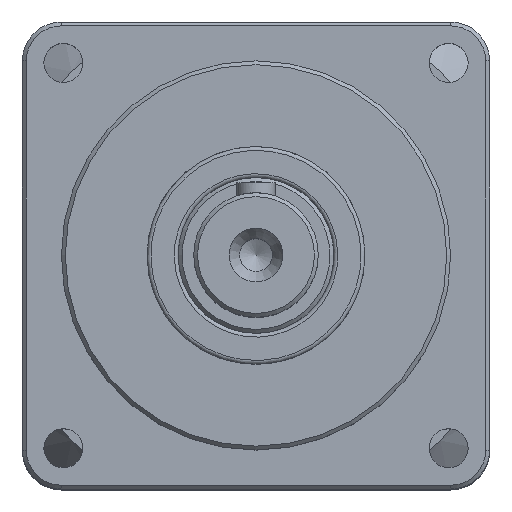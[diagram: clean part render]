
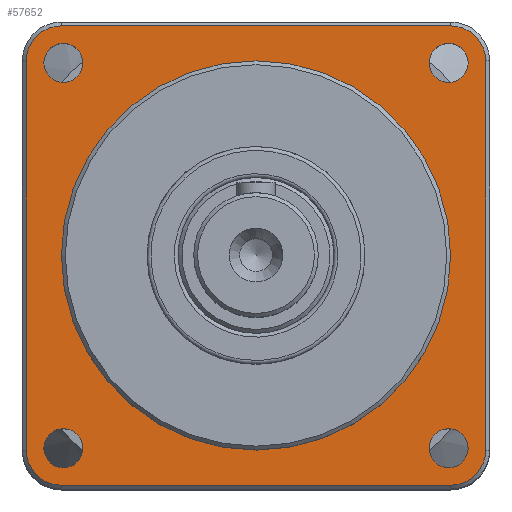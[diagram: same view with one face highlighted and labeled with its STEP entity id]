
A CAD part, top view. The second image highlights one B-rep face of the part: STEP entity #57652.
In plain terms, the highlighted planar face has unit normal (0, 0, 1).
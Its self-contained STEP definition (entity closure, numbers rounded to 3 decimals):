
#866 = ORIENTED_EDGE ( 'NONE', *, *, #18277, .T. ) ;
#891 = AXIS2_PLACEMENT_3D ( 'NONE', #52312, #44131, #35956 ) ;
#1132 = FACE_BOUND ( 'NONE', #28090, .T. ) ;
#1255 = EDGE_CURVE ( 'NONE', #19650, #19650, #40319, .T. ) ;
#1461 = VERTEX_POINT ( 'NONE', #42662 ) ;
#2676 = CIRCLE ( 'NONE', #64534, 2.5 ) ;
#3051 = AXIS2_PLACEMENT_3D ( 'NONE', #61007, #52857, #44670 ) ;
#3162 = FACE_BOUND ( 'NONE', #64157, .T. ) ;
#3461 = CIRCLE ( 'NONE', #891, 2.5 ) ;
#3787 = DIRECTION ( 'NONE',  ( -1., 0., 0. ) ) ;
#3793 = LINE ( 'NONE', #75368, #64826 ) ;
#5677 = CARTESIAN_POINT ( 'NONE',  ( -41.951, 0.913, 13.5 ) ) ;
#6763 = DIRECTION ( 'NONE',  ( 0., 0., 1. ) ) ;
#7094 = CARTESIAN_POINT ( 'NONE',  ( 10.298, 50.662, 13.5 ) ) ;
#7295 = FACE_BOUND ( 'NONE', #44975, .T. ) ;
#8000 = VERTEX_POINT ( 'NONE', #79539 ) ;
#11376 = DIRECTION ( 'NONE',  ( -1., 0., 0. ) ) ;
#11401 = FACE_BOUND ( 'NONE', #62643, .T. ) ;
#11483 = CARTESIAN_POINT ( 'NONE',  ( 7.547, 50.41, 13.5 ) ) ;
#11562 = VERTEX_POINT ( 'NONE', #76775 ) ;
#11610 = AXIS2_PLACEMENT_3D ( 'NONE', #65229, #57076, #48904 ) ;
#11628 = EDGE_CURVE ( 'NONE', #13882, #13882, #19925, .T. ) ;
#11952 = DIRECTION ( 'NONE',  ( 0., 0., 1. ) ) ;
#13882 = VERTEX_POINT ( 'NONE', #5677 ) ;
#14506 = EDGE_LOOP ( 'NONE', ( #74088 ) ) ;
#14943 = CARTESIAN_POINT ( 'NONE',  ( -39.702, 50.662, 13.5 ) ) ;
#15371 = CARTESIAN_POINT ( 'NONE',  ( -39.702, 0.662, 13.5 ) ) ;
#15542 = CARTESIAN_POINT ( 'NONE',  ( -39.702, 55.162, 13.5 ) ) ;
#16371 = ORIENTED_EDGE ( 'NONE', *, *, #48312, .T. ) ;
#17181 = CARTESIAN_POINT ( 'NONE',  ( -39.702, 25.662, 13.5 ) ) ;
#17557 = CIRCLE ( 'NONE', #26554, 4.5 ) ;
#18277 = EDGE_CURVE ( 'NONE', #79247, #67267, #53731, .T. ) ;
#19545 = DIRECTION ( 'NONE',  ( 0., 0., 1. ) ) ;
#19650 = VERTEX_POINT ( 'NONE', #11483 ) ;
#19712 = VERTEX_POINT ( 'NONE', #57265 ) ;
#19842 = DIRECTION ( 'NONE',  ( 0., 1., 0. ) ) ;
#19925 = CIRCLE ( 'NONE', #11610, 2.5 ) ;
#20060 = EDGE_CURVE ( 'NONE', #77579, #38358, #3793, .T. ) ;
#20124 = CARTESIAN_POINT ( 'NONE',  ( -14.702, 25.662, 13.5 ) ) ;
#25047 = ORIENTED_EDGE ( 'NONE', *, *, #69325, .T. ) ;
#25338 = VERTEX_POINT ( 'NONE', #17181 ) ;
#26554 = AXIS2_PLACEMENT_3D ( 'NONE', #15371, #78731, #70607 ) ;
#27696 = CARTESIAN_POINT ( 'NONE',  ( 10.298, 0.662, 13.5 ) ) ;
#27993 = CARTESIAN_POINT ( 'NONE',  ( 14.798, 55.662, 13.5 ) ) ;
#28090 = EDGE_LOOP ( 'NONE', ( #58327 ) ) ;
#30526 = EDGE_CURVE ( 'NONE', #11562, #77579, #65571, .T. ) ;
#30837 = AXIS2_PLACEMENT_3D ( 'NONE', #7094, #70505, #62336 ) ;
#31520 = CARTESIAN_POINT ( 'NONE',  ( -44.202, 50.662, 13.5 ) ) ;
#32275 = ORIENTED_EDGE ( 'NONE', *, *, #73444, .T. ) ;
#32552 = AXIS2_PLACEMENT_3D ( 'NONE', #14943, #6763, #78302 ) ;
#33113 = ORIENTED_EDGE ( 'NONE', *, *, #74509, .T. ) ;
#33494 = CIRCLE ( 'NONE', #48489, 25. ) ;
#33549 = CARTESIAN_POINT ( 'NONE',  ( -39.702, -3.838, 13.5 ) ) ;
#35761 = VECTOR ( 'NONE', #37406, 1000. ) ;
#35956 = DIRECTION ( 'NONE',  ( -1., 0., 0. ) ) ;
#36158 = LINE ( 'NONE', #27993, #37108 ) ;
#37108 = VECTOR ( 'NONE', #19842, 1000. ) ;
#37406 = DIRECTION ( 'NONE',  ( 1., 0., 0. ) ) ;
#37608 = EDGE_LOOP ( 'NONE', ( #66677, #74279, #32275, #16371, #866, #33113, #66232, #68884 ) ) ;
#38358 = VERTEX_POINT ( 'NONE', #15542 ) ;
#40319 = CIRCLE ( 'NONE', #3051, 2.5 ) ;
#41337 = CARTESIAN_POINT ( 'NONE',  ( 10.298, 55.162, 13.5 ) ) ;
#42186 = EDGE_CURVE ( 'NONE', #25338, #25338, #33494, .T. ) ;
#42662 = CARTESIAN_POINT ( 'NONE',  ( -44.202, 0.662, 13.5 ) ) ;
#42721 = EDGE_CURVE ( 'NONE', #38358, #72829, #58270, .T. ) ;
#44131 = DIRECTION ( 'NONE',  ( 0., 0., -1. ) ) ;
#44670 = DIRECTION ( 'NONE',  ( -1., 0., 0. ) ) ;
#44975 = EDGE_LOOP ( 'NONE', ( #25047 ) ) ;
#45544 = CARTESIAN_POINT ( 'NONE',  ( -44.702, -3.838, 13.5 ) ) ;
#45548 = DIRECTION ( 'NONE',  ( 0., -1., 0. ) ) ;
#46094 = ORIENTED_EDGE ( 'NONE', *, *, #1255, .T. ) ;
#48312 = EDGE_CURVE ( 'NONE', #1461, #79247, #17557, .T. ) ;
#48489 = AXIS2_PLACEMENT_3D ( 'NONE', #20124, #11952, #3787 ) ;
#48904 = DIRECTION ( 'NONE',  ( -1., 0., 0. ) ) ;
#50037 = AXIS2_PLACEMENT_3D ( 'NONE', #27696, #19545, #11376 ) ;
#51677 = DIRECTION ( 'NONE',  ( -1., 0., 0. ) ) ;
#51941 = EDGE_CURVE ( 'NONE', #19712, #11562, #36158, .T. ) ;
#52218 = DIRECTION ( 'NONE',  ( -1., 0., 0. ) ) ;
#52312 = CARTESIAN_POINT ( 'NONE',  ( -39.451, 50.41, 13.5 ) ) ;
#52857 = DIRECTION ( 'NONE',  ( 0., 0., -1. ) ) ;
#53731 = LINE ( 'NONE', #45544, #35761 ) ;
#53737 = CARTESIAN_POINT ( 'NONE',  ( -44.202, 55.662, 13.5 ) ) ;
#57076 = DIRECTION ( 'NONE',  ( 0., 0., -1. ) ) ;
#57265 = CARTESIAN_POINT ( 'NONE',  ( 14.798, 0.662, 13.5 ) ) ;
#57652 = ADVANCED_FACE ( 'NONE', ( #68494, #76703, #1132, #3162, #7295, #11401 ), #76128, .F. ) ;
#58270 = CIRCLE ( 'NONE', #32552, 4.5 ) ;
#58327 = ORIENTED_EDGE ( 'NONE', *, *, #67577, .T. ) ;
#59824 = DIRECTION ( 'NONE',  ( 0., 0., -1. ) ) ;
#60252 = CARTESIAN_POINT ( 'NONE',  ( 10.298, -3.838, 13.5 ) ) ;
#60363 = DIRECTION ( 'NONE',  ( 0., 0., -1. ) ) ;
#61007 = CARTESIAN_POINT ( 'NONE',  ( 10.047, 50.41, 13.5 ) ) ;
#61897 = LINE ( 'NONE', #53737, #77049 ) ;
#62336 = DIRECTION ( 'NONE',  ( -1., 0., 0. ) ) ;
#62643 = EDGE_LOOP ( 'NONE', ( #62710 ) ) ;
#62710 = ORIENTED_EDGE ( 'NONE', *, *, #42186, .F. ) ;
#64157 = EDGE_LOOP ( 'NONE', ( #46094 ) ) ;
#64534 = AXIS2_PLACEMENT_3D ( 'NONE', #68531, #60363, #52218 ) ;
#64826 = VECTOR ( 'NONE', #67183, 1000. ) ;
#65157 = CARTESIAN_POINT ( 'NONE',  ( 7.547, 0.913, 13.5 ) ) ;
#65229 = CARTESIAN_POINT ( 'NONE',  ( -39.451, 0.913, 13.5 ) ) ;
#65571 = CIRCLE ( 'NONE', #30837, 4.5 ) ;
#66232 = ORIENTED_EDGE ( 'NONE', *, *, #51941, .T. ) ;
#66677 = ORIENTED_EDGE ( 'NONE', *, *, #20060, .T. ) ;
#67183 = DIRECTION ( 'NONE',  ( -1., 0., 0. ) ) ;
#67267 = VERTEX_POINT ( 'NONE', #60252 ) ;
#67577 = EDGE_CURVE ( 'NONE', #73340, #73340, #2676, .T. ) ;
#67979 = CARTESIAN_POINT ( 'NONE',  ( -44.702, 55.662, 13.5 ) ) ;
#68494 = FACE_OUTER_BOUND ( 'NONE', #37608, .T. ) ;
#68531 = CARTESIAN_POINT ( 'NONE',  ( 10.047, 0.913, 13.5 ) ) ;
#68884 = ORIENTED_EDGE ( 'NONE', *, *, #30526, .T. ) ;
#69325 = EDGE_CURVE ( 'NONE', #8000, #8000, #3461, .T. ) ;
#70505 = DIRECTION ( 'NONE',  ( 0., 0., 1. ) ) ;
#70607 = DIRECTION ( 'NONE',  ( -1., 0., 0. ) ) ;
#72829 = VERTEX_POINT ( 'NONE', #31520 ) ;
#73107 = CIRCLE ( 'NONE', #50037, 4.5 ) ;
#73340 = VERTEX_POINT ( 'NONE', #65157 ) ;
#73444 = EDGE_CURVE ( 'NONE', #72829, #1461, #61897, .T. ) ;
#74088 = ORIENTED_EDGE ( 'NONE', *, *, #11628, .T. ) ;
#74279 = ORIENTED_EDGE ( 'NONE', *, *, #42721, .T. ) ;
#74509 = EDGE_CURVE ( 'NONE', #67267, #19712, #73107, .T. ) ;
#75368 = CARTESIAN_POINT ( 'NONE',  ( -44.702, 55.162, 13.5 ) ) ;
#76128 = PLANE ( 'NONE',  #78753 ) ;
#76703 = FACE_BOUND ( 'NONE', #14506, .T. ) ;
#76775 = CARTESIAN_POINT ( 'NONE',  ( 14.798, 50.662, 13.5 ) ) ;
#77049 = VECTOR ( 'NONE', #45548, 1000. ) ;
#77579 = VERTEX_POINT ( 'NONE', #41337 ) ;
#78302 = DIRECTION ( 'NONE',  ( -1., 0., 0. ) ) ;
#78731 = DIRECTION ( 'NONE',  ( 0., 0., 1. ) ) ;
#78753 = AXIS2_PLACEMENT_3D ( 'NONE', #67979, #59824, #51677 ) ;
#79247 = VERTEX_POINT ( 'NONE', #33549 ) ;
#79539 = CARTESIAN_POINT ( 'NONE',  ( -41.951, 50.41, 13.5 ) ) ;
